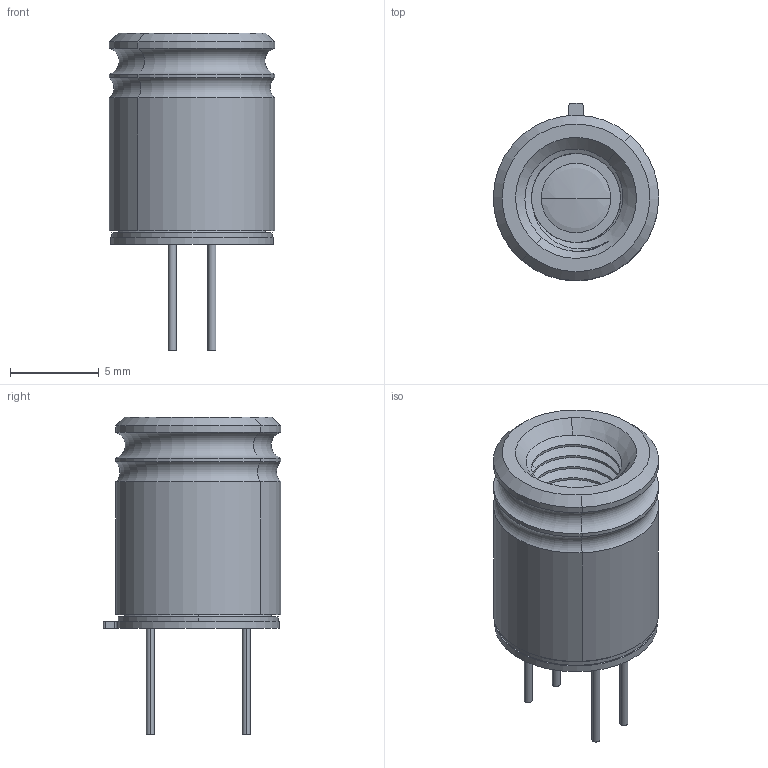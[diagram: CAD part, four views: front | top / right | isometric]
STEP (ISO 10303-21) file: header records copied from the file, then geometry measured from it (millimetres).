
FILE_DESCRIPTION((''),'2;1');
FILE_NAME('MLX90642BCB_ASM','2025-01-30T15:18:07',('aga'),(''),'CREO PARAMETRIC BY PTC INC, 2023294','CREO PARAMETRIC BY PTC INC, 2023294','');
FILE_SCHEMA(('AUTOMOTIVE_DESIGN { 1 0 10303 214 1 1 1 1 }'));
Length unit declared in the file: millimetre
Products named in the file (8): 9064X_BASE; GLASS_BEED; PIN_LONG; PIN_SHORT; TO39_CAP_90642_BCB; LENS_NARROW_02; 90642_EA_BCB_02; MLX90642BCB_ASM
Assembly tree (11 placements, depth 2):
  MLX90642BCB_ASM
    9064X_BASE
    GLASS_BEED  x3
    PIN_LONG  x3
    PIN_SHORT
    TO39_CAP_90642_BCB
    LENS_NARROW_02
    90642_EA_BCB_02
Bounding box: 9.3 x 10 x 17.87 mm (x, y, z)
Volume: 442 mm3; surface area: 1454.1 mm2
Topology: 11 solids, 11 shells, 142 faces, 300 edges, 179 vertices
Faces by surface type: cylinder 61, plane 25, torus 20, cone 16, revolution 12, bspline 6, sphere 2
Entity records: 5454 total; most frequent: CARTESIAN_POINT 1513, DIRECTION 615, ORIENTED_EDGE 508, AXIS2_PLACEMENT_3D 267, EDGE_CURVE 254, PRESENTATION_STYLE_ASSIGNMENT 172, STYLED_ITEM 172, VERTEX_POINT 155
